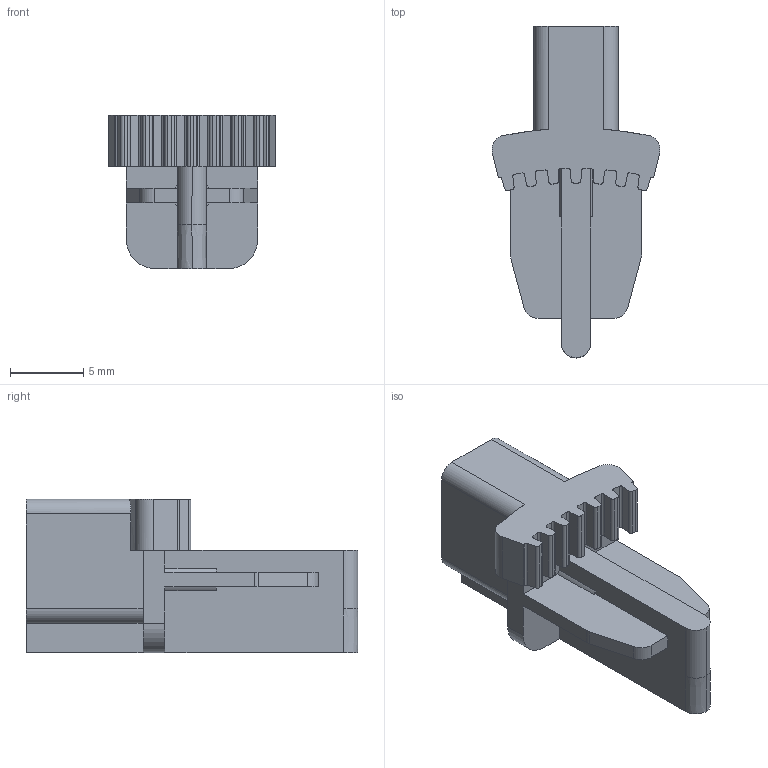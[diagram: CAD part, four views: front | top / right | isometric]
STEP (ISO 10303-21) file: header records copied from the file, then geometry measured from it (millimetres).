
FILE_DESCRIPTION(('CATIA V5 STEP Exchange'),'2;1');
FILE_NAME('G:\够快云库\系统集成开发部\1.部门成员\孙国\3D-stp打印件\20220215\SZP-0924.stp','2022-02-15T02:42:10+00:00',('none'),('none'),'CATIA Version 5 Release 20 GA (IN-10)','CATIA V5 STEP AP214','none');
FILE_SCHEMA(('AUTOMOTIVE_DESIGN { 1 0 10303 214 1 1 1 1 }'));
Length unit declared in the file: millimetre
Products named in the file (1): 锁止盘
Bounding box: 11.48 x 22.7 x 10.5 mm (x, y, z)
Volume: 757.3 mm3; surface area: 1044.9 mm2
Topology: 1 solids, 1 shells, 118 faces, 348 edges, 233 vertices
Faces by surface type: cylinder 63, plane 51, extrusion 4
Entity records: 3882 total; most frequent: CARTESIAN_POINT 952, ORIENTED_EDGE 696, DIRECTION 457, EDGE_CURVE 348, VERTEX_POINT 233, VECTOR 200, LINE 196, AXIS2_PLACEMENT_3D 169
